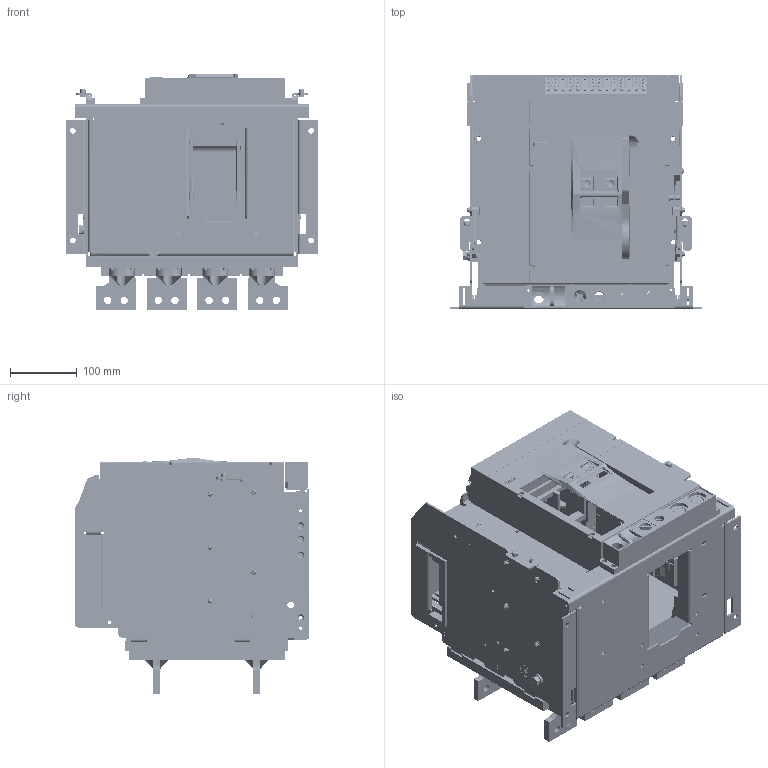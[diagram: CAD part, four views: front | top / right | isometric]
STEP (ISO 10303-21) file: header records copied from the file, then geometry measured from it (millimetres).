
FILE_DESCRIPTION((''),'2;1');
FILE_NAME('NA8G-1600-1000-DO-4P-H_ASM','2019-05-31T17:40:31',('lcc'),(''),'CREO PARAMETRIC BY PTC INC, 2018020','CREO PARAMETRIC BY PTC INC, 2018020','');
FILE_SCHEMA(('CONFIG_CONTROL_DESIGN','SHAPE_APPEARANCE_LAYERS_GROUPS'));
Products named in the file (52): 8-024-498; 8-300-164; 8-141-125; 8ZTD-860-349-2; 8-441-081; 5ZTD-024-170_ASM; 8-050-244; 8-960-058; 8-960-056; 8-960-057; 8-960-060; 8-960-059; 8-127-020; 8-125-057; 8-123-120; 8-261-001; 8-125-001; 8-210-176; 5-124-010_ASM; 8-233-301; GBT97_1-4; GBT93-4; GBT818-M4X10; GBT845-ST4_2X9_5C; GBT6170-M8; 5-050-095_ASM; 8-050-243; 8-261-002; 8-125-002; 5-124-011_ASM; GBT97_1-8; GBT93-8; GBT5783-M8X16; 5-050-096_ASM; 8-300-163; 8-015-020; 8ZTD-043-780; 8ZTD-043-781; 8-300-162-2; 8-005-238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
Assembly tree (104 placements, depth 4):
  NA8G-1600-1000-DO-4P-H_ASM
    5ZTD-024-170_ASM
      8-024-498
      8-300-164
      8-141-125
      8ZTD-860-349-2
      8-441-081
    5-050-095_ASM
      8-050-244
      8-960-058
      8-960-056
      8-960-057
      8-960-060
      8-960-059
      8-127-020
      8-125-057
      8-123-120
      5-124-010_ASM
        8-261-001
        8-125-001
        8-210-176
      8-233-301
      GBT97_1-4  x5
      GBT93-4  x5
      GBT818-M4X10  x5
      GBT845-ST4_2X9_5C
      GBT6170-M8  x2
    5-050-096_ASM
      8-050-243
      8-125-057
      8-123-120
      5-124-011_ASM
        8-261-002
        8-125-002
        8-210-176
      GBT6170-M8  x2
      GBT97_1-4  x5
      GBT93-4  x5
      GBT818-M4X10  x5
      GBT97_1-8  x2
      GBT93-8
      GBT5783-M8X16
    8-300-163
    8-015-020
    8ZTD-043-780
    8ZTD-043-781
    8-300-162-2
    8-005-238
    8-253-348
    8-253-349
    8-253-309
    5-235-147
    1600-DUANZI-CTS_ASM
      8ZTD-064-138
      8ZTD-024-689  x14
      8ZTD-860-511
    1600-DIJIA-4P
    8ZTD-580-187-2  x4
    8ZTD-580-188-2  x4
Bounding box: 378 x 351 x 355 mm (x, y, z)
Volume: 8323332.3 mm3; surface area: 2111688.7 mm2
Topology: 98 solids, 158 shells, 7740 faces, 21118 edges, 13869 vertices
Faces by surface type: plane 5753, cylinder 1728, cone 134, bspline 50, torus 42, sphere 32, extrusion 1
Entity records: 204451 total; most frequent: CARTESIAN_POINT 30364, ORIENTED_EDGE 27504, DIRECTION 26781, EDGE_CURVE 13763, PRESENTATION_STYLE_ASSIGNMENT 12917, STYLED_ITEM 12880, CURVE_STYLE 12216, VECTOR 10817
